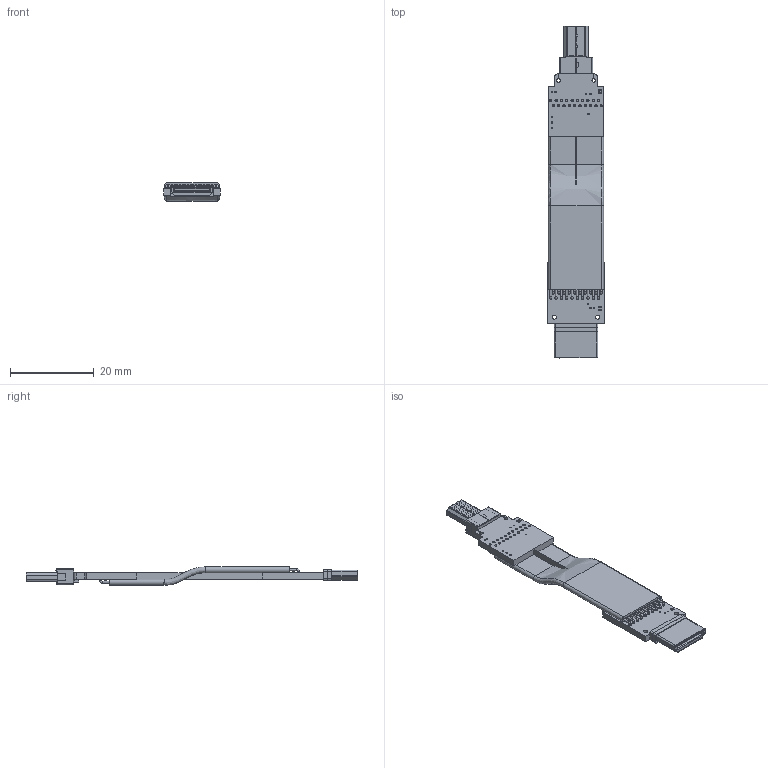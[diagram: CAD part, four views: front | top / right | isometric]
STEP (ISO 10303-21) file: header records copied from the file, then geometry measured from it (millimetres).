
FILE_DESCRIPTION(('Open CASCADE Model'),'2;1');
FILE_NAME('Open CASCADE Shape Model','2022-06-09T22:44:57',('Author'),( 'Open CASCADE'),'Open CASCADE STEP processor 6.8','Open CASCADE 6.8' ,'Unknown');
FILE_SCHEMA(('AUTOMOTIVE_DESIGN { 1 0 10303 214 1 1 1 1 }'));
Length unit declared in the file: millimetre
Products named in the file (70): PCB; Board; Open CASCADE STEP translator 6.8 1.1.1; _1; miniHDMI-p_RGB10275833; HDMI_type_C1; Open CASCADE STEP translator 6.8 1.3; HDMI_MICRO_D(M)_??(2); Free-Models; cable20-A1A3
Assembly tree (70 placements, depth 3):
  PCB
    Board
      Open CASCADE STEP translator 6.8 1.1.1
    _1
      miniHDMI-p_RGB10275833  x2
      HDMI_type_C1
    Open CASCADE STEP translator 6.8 1.3
      HDMI_MICRO_D(M)_??(2)
      HDMI_MICRO_D(M)_??(2)
      HDMI_MICRO_D(M)_??(2)
      HDMI_MICRO_D(M)_??(2)
      HDMI_MICRO_D(M)_??(2)
      HDMI_MICRO_D(M)_??(2)
      HDMI_MICRO_D(M)_??(2)
      HDMI_MICRO_D(M)_??(2)
      HDMI_MICRO_D(M)_??(2)
      HDMI_MICRO_D(M)_??(2)
      HDMI_MICRO_D(M)_??(2)
      HDMI_MICRO_D(M)_??(2)
      HDMI_MICRO_D(M)_??(2)
      HDMI_MICRO_D(M)_??(2)
      HDMI_MICRO_D(M)_??(2)
      HDMI_MICRO_D(M)_??(2)
      HDMI_MICRO_D(M)_??(2)
      HDMI_MICRO_D(M)_??(2)
      HDMI_MICRO_D(M)_??(2)
      HDMI_MICRO_D(M)_??(2)
      HDMI_MICRO_D(M)_??(2)
      HDMI_MICRO_D(M)_??(2)
    Free-Models
      cable20-A1A3
      cable20-A1A3
      cable20-A1A3
      cable20-A1A3
      cable20-A1A3
      cable20-A1A3
      cable20-A1A3
      cable20-A1A3
      cable20-A1A3
      cable20-A1A3
      cable20-A1A3
      cable20-A1A3
      cable20-A1A3
      cable20-A1A3
      cable20-A1A3
      cable20-A1A3
      cable20-A1A3
      cable20-A1A3
      cable20-A1A3
      cable20-A1A3
      cable20-A1A3
      cable20-A1A3
      cable20-A1A3
      cable20-A1A3
      cable20-A1A3
      cable20-A1A3
      cable20-A1A3
      cable20-A1A3
      cable20-A1A3
      cable20-A1A3
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Bounding box: 13.4 x 79.32 x 4.4 mm (x, y, z)
Volume: 1629.3 mm3; surface area: 5039 mm2
Topology: 66 solids, 66 shells, 944 faces, 2310 edges, 1498 vertices
Faces by surface type: plane 578, cylinder 270, torus 46, bspline 46, extrusion 4
Full cylindrical faces by diameter (mm): 0.254 x7, 0.304 x12, 0.4 x96, 0.404 x2, 0.405 x2, 0.55 x40, 0.8 x2
Entity records: 38737 total; most frequent: CARTESIAN_POINT 7585, ORIENTED_EDGE 4572, DIRECTION 4548, EDGE_CURVE 2286, AXIS2_PLACEMENT_3D 1521, VECTOR 1506, LINE 1502, VERTEX_POINT 1482
